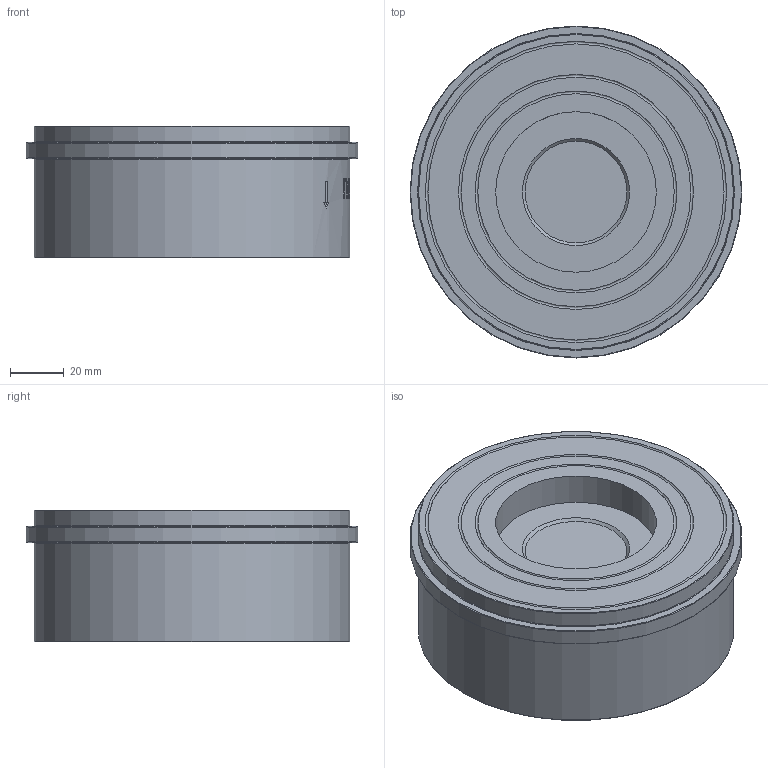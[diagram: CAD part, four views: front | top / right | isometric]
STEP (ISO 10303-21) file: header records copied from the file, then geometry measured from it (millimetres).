
FILE_DESCRIPTION(('STEP AP214'), '1');
FILE_NAME('VCS3232-Fb 孰囡囗 钺疣蝽 DN.ru 捏65 畜40', '', ('UNSPECIFIED'), ('UNSPECIFIED'), 'C3D Converter', 'C3D Toolkit', '');
FILE_SCHEMA(('AUTOMOTIVE_DESIGN { 1 0 10303 214 3 1 1}'));
Length unit declared in the file: millimetre
Products named in the file (1): VCS3232-Fb
Bounding box: 124 x 124 x 49 mm (x, y, z)
Volume: 256434.3 mm3; surface area: 91319 mm2
Topology: 2 solids, 2 shells, 142 faces, 344 edges, 225 vertices
Faces by surface type: plane 70, cylinder 30, extrusion 29, torus 11, bspline 1, cone 1
Full cylindrical faces by diameter (mm): 20 x1, 20.2 x1, 60 x1, 71.98 x1, 72 x1, 84 x1, 92 x1, 95.98 x1, 96 x1, 106 x1, 118 x2, 124 x1
Entity records: 9047 total; most frequent: CARTESIAN_POINT 5083, ORIENTED_EDGE 636, DIRECTION 603, EDGE_CURVE 318, VERTEX_POINT 225, AXIS2_PLACEMENT_3D 224, EDGE_LOOP 197, VECTOR 155
